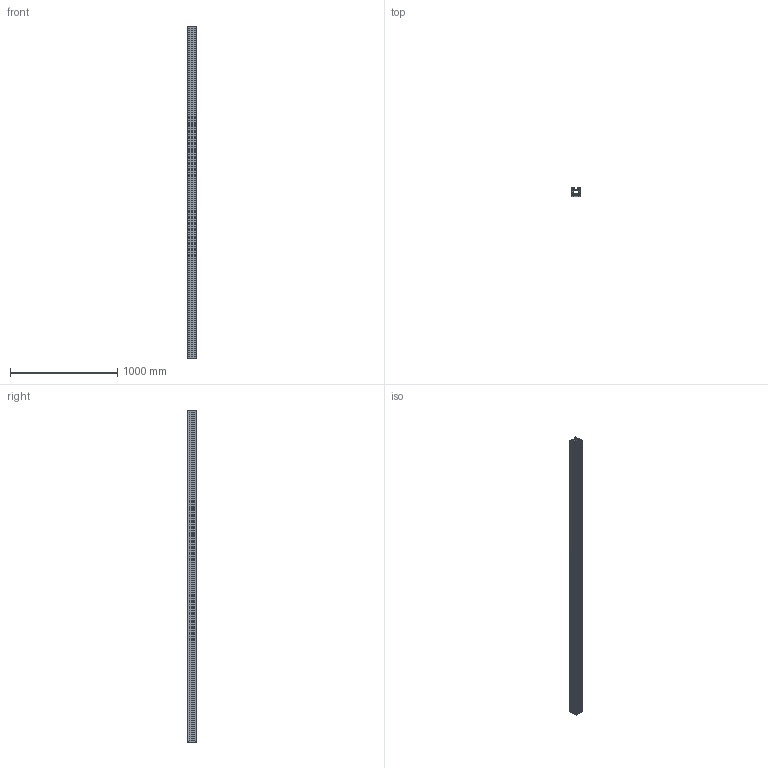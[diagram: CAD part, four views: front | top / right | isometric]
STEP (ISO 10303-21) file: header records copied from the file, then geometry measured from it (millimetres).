
FILE_DESCRIPTION (( 'STEP AP203' ), '1' );
FILE_NAME ('_-_MLF 4 3098 mm lang.step', '2005-09-01T12:46:45', ( ' ' ), ( ' ' ), 'SwSTEP 2.0', 'SolidWorks 2005187', '' );
FILE_SCHEMA (( 'CONFIG_CONTROL_DESIGN' ));
Length unit declared in the file: millimetre
Products named in the file (1): _-_MLF 4  3098 mm lang
Bounding box: 87.6 x 80 x 3098 mm (x, y, z)
Volume: 7138277.9 mm3; surface area: 3826492.2 mm2
Topology: 1 solids, 1 shells, 248 faces, 762 edges, 500 vertices
Faces by surface type: plane 174, cylinder 74
Entity records: 8575 total; most frequent: ORIENTED_EDGE 1524, CARTESIAN_POINT 1511, DIRECTION 1408, EDGE_CURVE 762, VECTOR 614, LINE 614, VERTEX_POINT 500, AXIS2_PLACEMENT_3D 397
